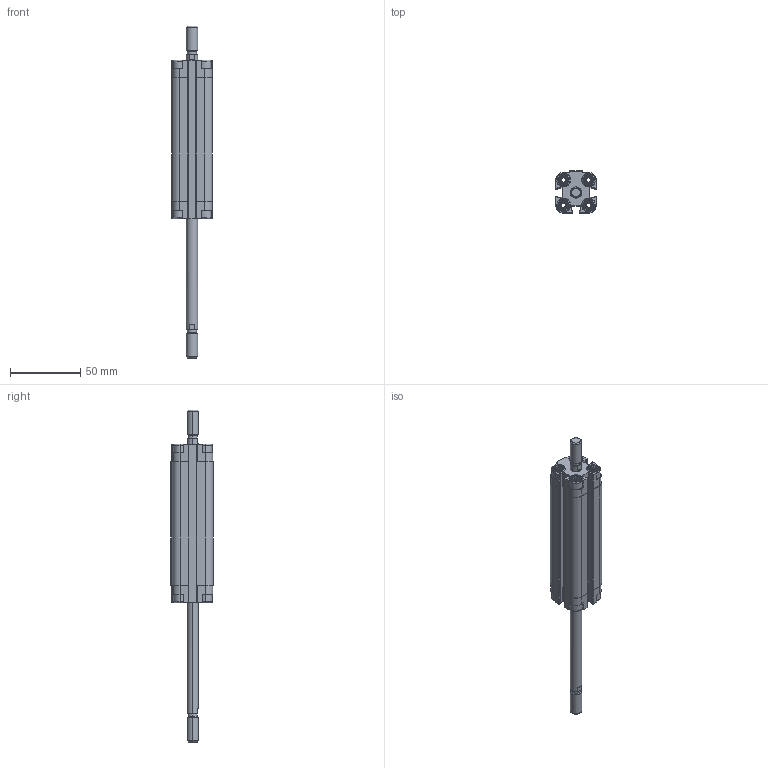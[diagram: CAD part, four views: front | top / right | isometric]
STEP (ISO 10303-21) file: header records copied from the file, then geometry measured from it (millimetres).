
FILE_DESCRIPTION (( 'STEP AP203' ), '1' );
FILE_NAME ('CDVU16-75M-P.STEP', '2020-07-21T15:05:25', ( '' ), ( '' ), 'SwSTEP 2.0', 'SolidWorks 2019', '' );
FILE_SCHEMA (( 'CONFIG_CONTROL_DESIGN' ));
Length unit declared in the file: millimetre
Products named in the file (1): CDVU16-75M-P
Bounding box: 29 x 30 x 237 mm (x, y, z)
Volume: 65233.2 mm3; surface area: 38714.1 mm2
Topology: 2 solids, 2 shells, 566 faces, 1504 edges, 978 vertices
Faces by surface type: plane 338, cylinder 164, cone 48, torus 16
Entity records: 17771 total; most frequent: CARTESIAN_POINT 3621, ORIENTED_EDGE 3000, DIRECTION 2850, EDGE_CURVE 1500, VERTEX_POINT 978, AXIS2_PLACEMENT_3D 975, LINE 900, VECTOR 900
